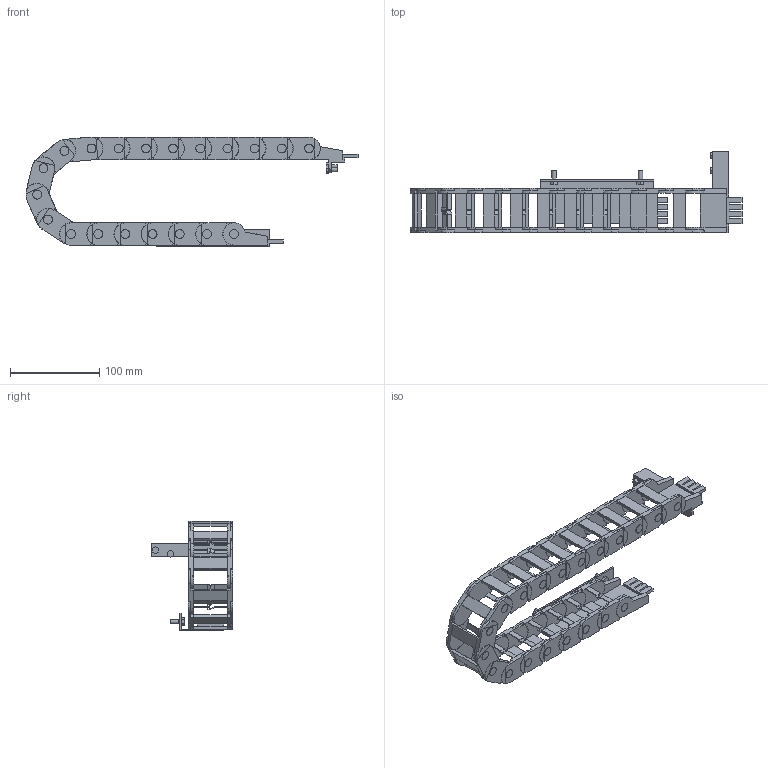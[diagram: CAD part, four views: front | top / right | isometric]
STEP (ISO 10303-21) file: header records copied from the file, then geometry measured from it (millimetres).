
FILE_DESCRIPTION( ( 'STEP AP214' ), '1' );
FILE_NAME( 'U:/Etudes/Top Solid/BIBLIO 3D AVM/STEP/STEP2007LINMOT/8319212.step', '2007-06-07T07:17:17', ( ' ' ), ( ' ' ), 'XStep 1.0', ' ', ' ' );
FILE_SCHEMA( ( 'automotive_design' ) );
Length unit declared in the file: metre
Products named in the file (21): 1; 2; 3; 4; 5; 6; 7; 8; 9; 10; 11; 12; 13; 14; 15; 16; 17; 18; 19; 20; 21
Bounding box: 372.51 x 91.5 x 123.3 mm (x, y, z)
Volume: 249805.5 mm3; surface area: 192483.3 mm2
Topology: 21 solids, 21 shells, 1626 faces, 4587 edges, 3054 vertices
Faces by surface type: plane 1225, cylinder 397, cone 4
Full cylindrical faces by diameter (mm): 4 x4, 4.2 x2, 5 x4, 5.2 x2
Entity records: 65969 total; most frequent: CARTESIAN_POINT 9388, ORIENTED_EDGE 9126, DIRECTION 8951, EDGE_CURVE 4563, LINE 3461, VECTOR 3461, VERTEX_POINT 3046, AXIS2_PLACEMENT_3D 2745
